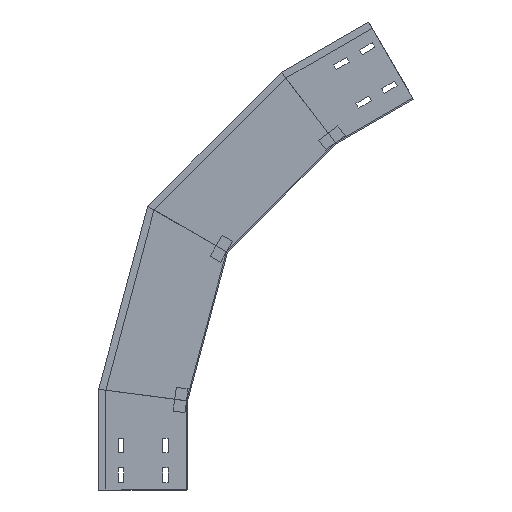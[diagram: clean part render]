
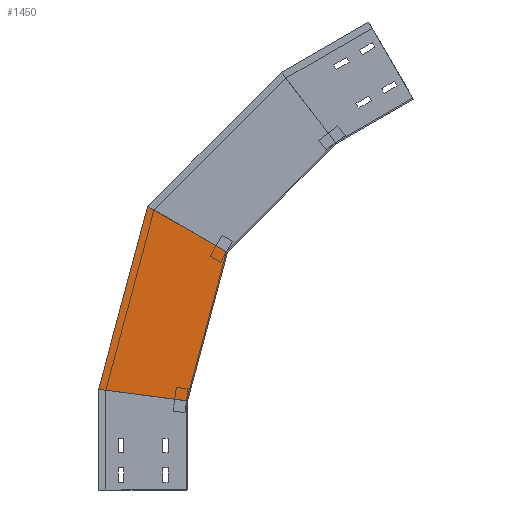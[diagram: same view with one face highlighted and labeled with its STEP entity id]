
A CAD part, left-side view. The second image highlights one B-rep face of the part: STEP entity #1450.
In plain terms, the highlighted planar face has unit normal (-1, 0, 0) as drawn and (1, 0, 0) by its records, which use the part's own axes.
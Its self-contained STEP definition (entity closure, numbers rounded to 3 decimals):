
#21 = DIRECTION ( 'NONE',  ( 0., -0.866, -0.5 ) ) ;
#43 = DIRECTION ( 'NONE',  ( 0., 0., -1. ) ) ;
#154 = EDGE_CURVE ( 'NONE', #891, #1477, #1115, .T. ) ;
#414 = DIRECTION ( 'NONE',  ( 0., -0.707, 0.707 ) ) ;
#417 = LINE ( 'NONE', #1810, #1334 ) ;
#470 = VECTOR ( 'NONE', #414, 1000. ) ;
#543 = VECTOR ( 'NONE', #21, 1000. ) ;
#580 = CARTESIAN_POINT ( 'NONE',  ( 0., -274.276, 551.906 ) ) ;
#607 = CARTESIAN_POINT ( 'NONE',  ( 0., -35.701, 368.842 ) ) ;
#839 = ORIENTED_EDGE ( 'NONE', *, *, #154, .T. ) ;
#862 = ORIENTED_EDGE ( 'NONE', *, *, #1452, .F. ) ;
#891 = VERTEX_POINT ( 'NONE', #1010 ) ;
#1010 = CARTESIAN_POINT ( 'NONE',  ( 0., -158.073, 703.345 ) ) ;
#1024 = ORIENTED_EDGE ( 'NONE', *, *, #1667, .T. ) ;
#1100 = CARTESIAN_POINT ( 'NONE',  ( 0., -129.979, 363.834 ) ) ;
#1115 = LINE ( 'NONE', #580, #1818 ) ;
#1119 = DIRECTION ( 'NONE',  ( 0., -0.707, 0.707 ) ) ;
#1236 = LINE ( 'NONE', #607, #470 ) ;
#1257 = CARTESIAN_POINT ( 'NONE',  ( 0., -250.175, 583.315 ) ) ;
#1273 = DIRECTION ( 'NONE',  ( 0., -0.609, -0.793 ) ) ;
#1332 = EDGE_LOOP ( 'NONE', ( #1024, #839, #1489, #862 ) ) ;
#1334 = VECTOR ( 'NONE', #1119, 1000. ) ;
#1396 = CARTESIAN_POINT ( 'NONE',  ( 0., -67.034, 400.175 ) ) ;
#1450 = ADVANCED_FACE ( 'NONE', ( #1937 ), #1955, .T. ) ;
#1452 = EDGE_CURVE ( 'NONE', #1711, #2073, #2117, .T. ) ;
#1477 = VERTEX_POINT ( 'NONE', #1257 ) ;
#1489 = ORIENTED_EDGE ( 'NONE', *, *, #1862, .F. ) ;
#1523 = CARTESIAN_POINT ( 'NONE',  ( 0., 67.452, 477.821 ) ) ;
#1575 = DIRECTION ( 'NONE',  ( 1., 0., 0. ) ) ;
#1619 = AXIS2_PLACEMENT_3D ( 'NONE', #1926, #1575, #43 ) ;
#1667 = EDGE_CURVE ( 'NONE', #1711, #891, #417, .T. ) ;
#1711 = VERTEX_POINT ( 'NONE', #1523 ) ;
#1810 = CARTESIAN_POINT ( 'NONE',  ( 0., 70.365, 474.908 ) ) ;
#1818 = VECTOR ( 'NONE', #1273, 1000. ) ;
#1862 = EDGE_CURVE ( 'NONE', #2073, #1477, #1236, .T. ) ;
#1926 = CARTESIAN_POINT ( 'NONE',  ( 0., -35.701, 368.842 ) ) ;
#1937 = FACE_OUTER_BOUND ( 'NONE', #1332, .T. ) ;
#1955 = PLANE ( 'NONE',  #1619 ) ;
#2073 = VERTEX_POINT ( 'NONE', #1396 ) ;
#2117 = LINE ( 'NONE', #1100, #543 ) ;
